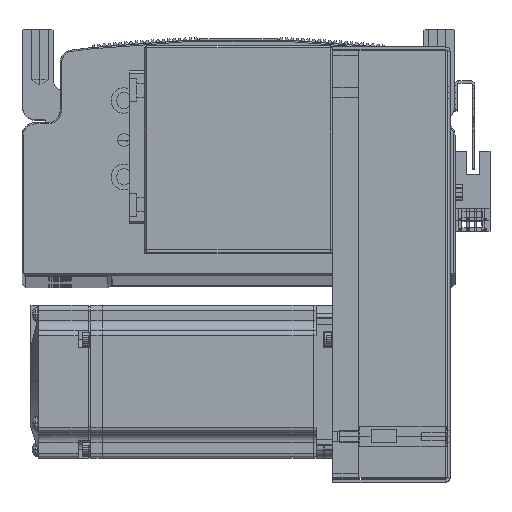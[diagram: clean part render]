
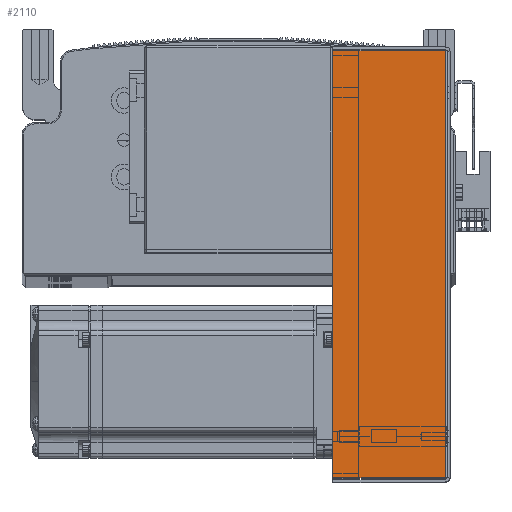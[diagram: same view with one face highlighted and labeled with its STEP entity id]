
A CAD part, top view. The second image highlights one B-rep face of the part: STEP entity #2110.
In plain terms, the highlighted planar face has unit normal (0, 0, 1) as drawn and (0, 0, -1) by its records, which use the part's own axes.
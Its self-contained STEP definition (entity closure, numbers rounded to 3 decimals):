
#2110 = ADVANCED_FACE ( 'NONE', ( #46496 ), #90213, .F. ) ;
#12875 = DIRECTION ( 'NONE',  ( 1., 0., 0. ) ) ;
#12888 = CARTESIAN_POINT ( 'NONE',  ( 0., 0.737, -40.5 ) ) ;
#12930 = CARTESIAN_POINT ( 'NONE',  ( -83.793, 0., -40.5 ) ) ;
#12931 = DIRECTION ( 'NONE',  ( 0., 1., 0. ) ) ;
#13863 = DIRECTION ( 'NONE',  ( 0., 1., 0. ) ) ;
#13969 = DIRECTION ( 'NONE',  ( 1., 0., 0. ) ) ;
#13973 = CARTESIAN_POINT ( 'NONE',  ( 84.5, 45., -40.5 ) ) ;
#14136 = CARTESIAN_POINT ( 'NONE',  ( 83.793, 0., -40.5 ) ) ;
#14208 = VECTOR ( 'NONE', #12875, 1000. ) ;
#14218 = LINE ( 'NONE', #12930, #14243 ) ;
#14239 = LINE ( 'NONE', #12888, #14208 ) ;
#14243 = VECTOR ( 'NONE', #12931, 1000. ) ;
#14642 = LINE ( 'NONE', #14136, #14665 ) ;
#14665 = VECTOR ( 'NONE', #13863, 1000. ) ;
#16095 = LINE ( 'NONE', #13973, #16288 ) ;
#16288 = VECTOR ( 'NONE', #13969, 1000. ) ;
#46496 = FACE_OUTER_BOUND ( 'NONE', #54620, .T. ) ;
#54620 = EDGE_LOOP ( 'NONE', ( #81983, #81925, #82033, #81952 ) ) ;
#64067 = AXIS2_PLACEMENT_3D ( 'NONE', #90221, #90252, #90211 ) ;
#73848 = EDGE_CURVE ( 'NONE', #91589, #91591, #16095, .T. ) ;
#73945 = EDGE_CURVE ( 'NONE', #91581, #91591, #14642, .T. ) ;
#73992 = EDGE_CURVE ( 'NONE', #91595, #91581, #14239, .T. ) ;
#74007 = EDGE_CURVE ( 'NONE', #91595, #91589, #14218, .T. ) ;
#81925 = ORIENTED_EDGE ( 'NONE', *, *, #74007, .T. ) ;
#81952 = ORIENTED_EDGE ( 'NONE', *, *, #73945, .F. ) ;
#81983 = ORIENTED_EDGE ( 'NONE', *, *, #73992, .F. ) ;
#82033 = ORIENTED_EDGE ( 'NONE', *, *, #73848, .T. ) ;
#90211 = DIRECTION ( 'NONE',  ( 0., -1., 0. ) ) ;
#90213 = PLANE ( 'NONE',  #64067 ) ;
#90221 = CARTESIAN_POINT ( 'NONE',  ( 0., 0., -40.5 ) ) ;
#90252 = DIRECTION ( 'NONE',  ( 0., 0., 1. ) ) ;
#91581 = VERTEX_POINT ( 'NONE', #94617 ) ;
#91589 = VERTEX_POINT ( 'NONE', #94619 ) ;
#91591 = VERTEX_POINT ( 'NONE', #94621 ) ;
#91595 = VERTEX_POINT ( 'NONE', #94625 ) ;
#94617 = CARTESIAN_POINT ( 'NONE',  ( 83.793, 0.737, -40.5 ) ) ;
#94619 = CARTESIAN_POINT ( 'NONE',  ( -83.793, 45., -40.5 ) ) ;
#94621 = CARTESIAN_POINT ( 'NONE',  ( 83.793, 45., -40.5 ) ) ;
#94625 = CARTESIAN_POINT ( 'NONE',  ( -83.793, 0.737, -40.5 ) ) ;
